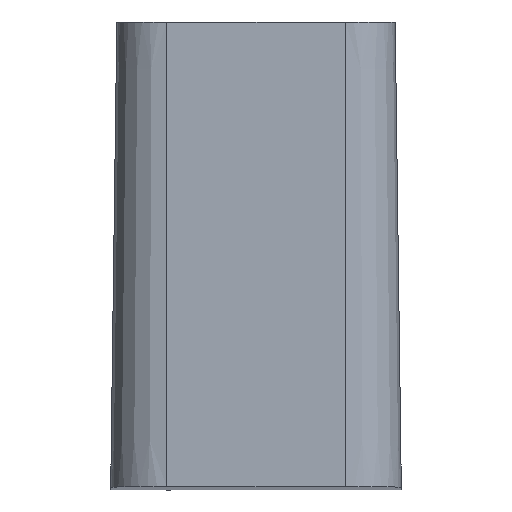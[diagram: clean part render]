
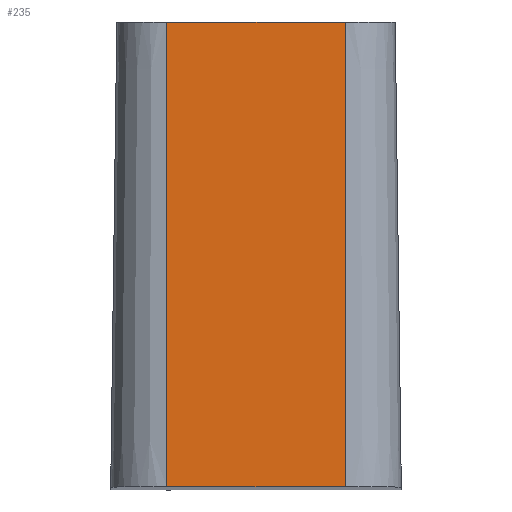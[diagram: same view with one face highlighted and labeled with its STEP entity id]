
A CAD part, top view. The second image highlights one B-rep face of the part: STEP entity #235.
In plain terms, the highlighted planar face has unit normal (0, 0.013, 1).
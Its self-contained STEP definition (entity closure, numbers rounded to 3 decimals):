
#4 = DIRECTION ( 'NONE',  ( 1., 0., 0. ) ) ;
#13 = CARTESIAN_POINT ( 'NONE',  ( -4.75, -24.8, 21.005 ) ) ;
#17 = CARTESIAN_POINT ( 'NONE',  ( -4.75, 0., 20.68 ) ) ;
#23 = CARTESIAN_POINT ( 'NONE',  ( -4.75, -24.8, 21.005 ) ) ;
#35 = VERTEX_POINT ( 'NONE', #23 ) ;
#40 = VERTEX_POINT ( 'NONE', #57 ) ;
#41 = VERTEX_POINT ( 'NONE', #58 ) ;
#47 = VERTEX_POINT ( 'NONE', #62 ) ;
#57 = CARTESIAN_POINT ( 'NONE',  ( -4.75, 0., 20.68 ) ) ;
#58 = CARTESIAN_POINT ( 'NONE',  ( 4.75, 0., 20.68 ) ) ;
#62 = CARTESIAN_POINT ( 'NONE',  ( 4.75, -24.8, 21.005 ) ) ;
#88 = CARTESIAN_POINT ( 'NONE',  ( -4.75, -24.8, 21.005 ) ) ;
#89 = PLANE ( 'NONE',  #312 ) ;
#91 = DIRECTION ( 'NONE',  ( 0., 0.013, 1. ) ) ;
#92 = DIRECTION ( 'NONE',  ( 0., 1., -0.013 ) ) ;
#107 = DIRECTION ( 'NONE',  ( 1., 0., 0. ) ) ;
#139 = CARTESIAN_POINT ( 'NONE',  ( 4.75, -24.8, 21.005 ) ) ;
#140 = DIRECTION ( 'NONE',  ( 0., -1., 0.013 ) ) ;
#183 = CARTESIAN_POINT ( 'NONE',  ( -4.75, -24.8, 21.005 ) ) ;
#184 = DIRECTION ( 'NONE',  ( 0., -1., 0.013 ) ) ;
#202 = LINE ( 'NONE', #13, #203 ) ;
#203 = VECTOR ( 'NONE', #4, 1000. ) ;
#235 = ADVANCED_FACE ( 'NONE', ( #370 ), #89, .T. ) ;
#243 = EDGE_CURVE ( 'NONE', #40, #41, #376, .T. ) ;
#258 = EDGE_CURVE ( 'NONE', #41, #47, #410, .T. ) ;
#294 = EDGE_LOOP ( 'NONE', ( #449, #440, #451, #446 ) ) ;
#312 = AXIS2_PLACEMENT_3D ( 'NONE', #88, #91, #92 ) ;
#331 = EDGE_CURVE ( 'NONE', #40, #35, #425, .T. ) ;
#343 = EDGE_CURVE ( 'NONE', #35, #47, #202, .T. ) ;
#370 = FACE_OUTER_BOUND ( 'NONE', #294, .T. ) ;
#376 = LINE ( 'NONE', #17, #383 ) ;
#383 = VECTOR ( 'NONE', #107, 1000. ) ;
#410 = LINE ( 'NONE', #139, #411 ) ;
#411 = VECTOR ( 'NONE', #140, 1000. ) ;
#422 = VECTOR ( 'NONE', #184, 1000. ) ;
#425 = LINE ( 'NONE', #183, #422 ) ;
#440 = ORIENTED_EDGE ( 'NONE', *, *, #258, .F. ) ;
#446 = ORIENTED_EDGE ( 'NONE', *, *, #331, .T. ) ;
#449 = ORIENTED_EDGE ( 'NONE', *, *, #343, .T. ) ;
#451 = ORIENTED_EDGE ( 'NONE', *, *, #243, .F. ) ;
